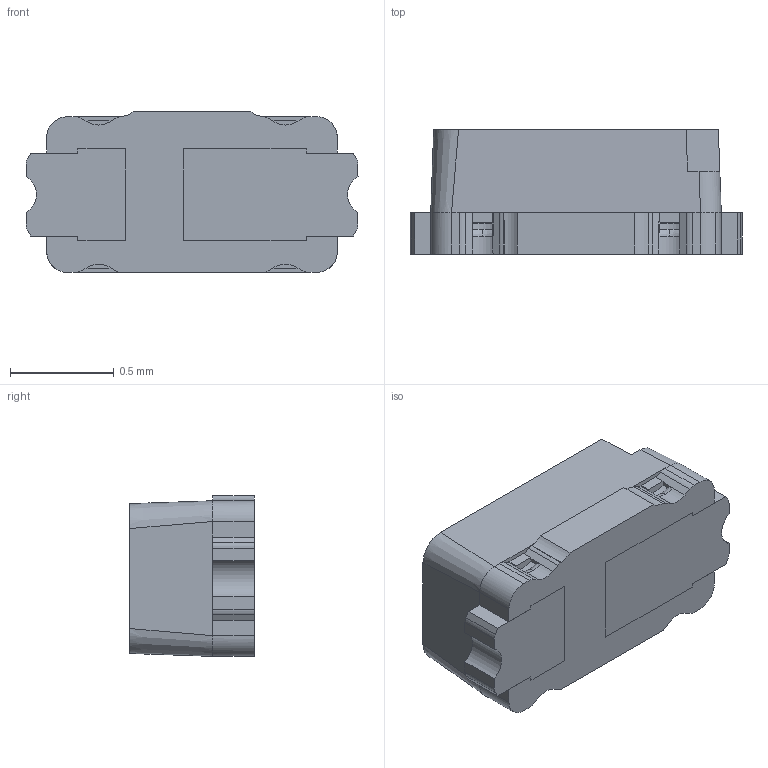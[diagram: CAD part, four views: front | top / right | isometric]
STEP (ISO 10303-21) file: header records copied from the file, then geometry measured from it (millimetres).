
FILE_DESCRIPTION (( 'STEP AP203' ), '1' );
FILE_NAME ('1608.STEP', '2017-08-29T03:49:40', ( 'Sky123.Org' ), ( 'Sky123.Org' ), 'SwSTEP 2.0', 'SolidWorks 2014', '' );
FILE_SCHEMA (( 'CONFIG_CONTROL_DESIGN' ));
Length unit declared in the file: millimetre
Products named in the file (1): 1608
Bounding box: 1.6 x 0.6 x 0.78 mm (x, y, z)
Volume: 0.7 mm3; surface area: 10.6 mm2
Topology: 5 solids, 5 shells, 273 faces, 722 edges, 452 vertices
Faces by surface type: plane 182, cylinder 63, bspline 25, cone 3
Entity records: 8886 total; most frequent: CARTESIAN_POINT 2427, ORIENTED_EDGE 1436, DIRECTION 1152, EDGE_CURVE 718, LINE 514, VECTOR 514, VERTEX_POINT 452, AXIS2_PLACEMENT_3D 319
